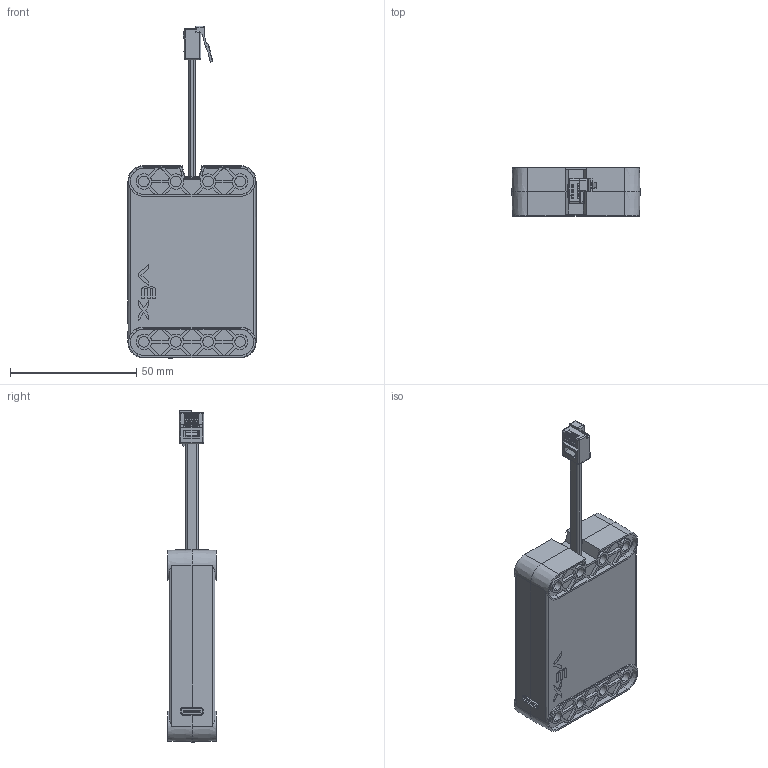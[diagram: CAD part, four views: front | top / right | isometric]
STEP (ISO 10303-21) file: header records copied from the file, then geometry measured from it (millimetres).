
FILE_DESCRIPTION (( 'STEP AP214' ), '1' );
FILE_NAME ('269-6686-000 FOR RELEASE.STEP', '2021-02-19T17:02:26', ( '' ), ( '' ), 'SwSTEP 2.0', 'SolidWorks 2019', '' );
FILE_SCHEMA (( 'AUTOMOTIVE_DESIGN' ));
Length unit declared in the file: millimetre
Products named in the file (1): 269-6686-000 FOR RELEASE
Bounding box: 50.8 x 19.1 x 131.55 mm (x, y, z)
Volume: 66966 mm3; surface area: 17787.8 mm2
Topology: 1 solids, 19 shells, 1361 faces, 3798 edges, 2475 vertices
Faces by surface type: plane 882, cylinder 324, cone 82, bspline 62, torus 11
Entity records: 58784 total; most frequent: CARTESIAN_POINT 10588, ORIENTED_EDGE 7586, DIRECTION 6634, EDGE_CURVE 3793, VECTOR 2658, LINE 2658, VERTEX_POINT 2475, AXIS2_PLACEMENT_3D 1988
